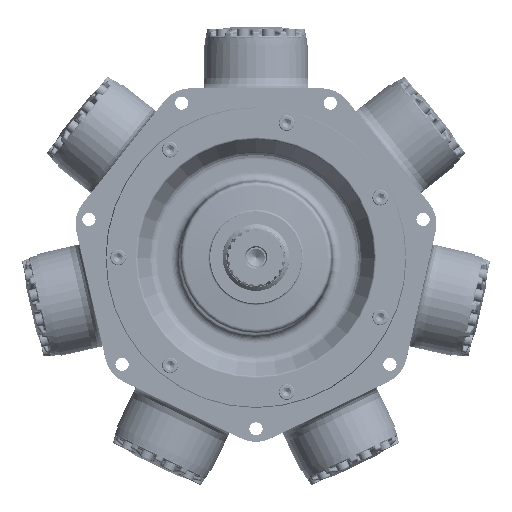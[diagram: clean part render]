
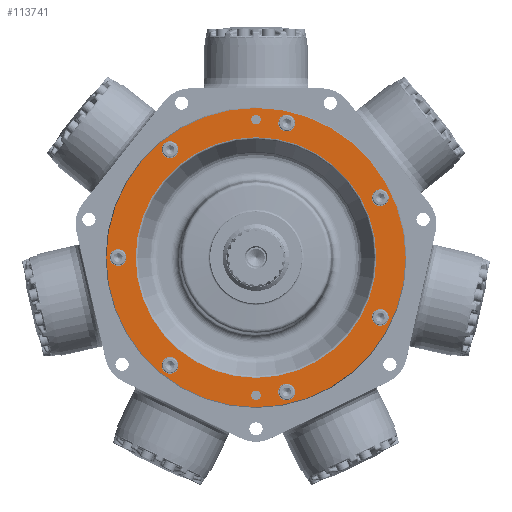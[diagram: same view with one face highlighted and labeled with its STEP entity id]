
A CAD part, top view. The second image highlights one B-rep face of the part: STEP entity #113741.
In plain terms, the highlighted planar face has unit normal (0, 0, 1).
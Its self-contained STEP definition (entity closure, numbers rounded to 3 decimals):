
#2254=FACE_BOUND('',#27237,.T.);
#2255=FACE_BOUND('',#27238,.T.);
#2256=FACE_BOUND('',#27239,.T.);
#2257=FACE_BOUND('',#27240,.T.);
#2258=FACE_BOUND('',#27241,.T.);
#2259=FACE_BOUND('',#27242,.T.);
#2260=FACE_BOUND('',#27243,.T.);
#2261=FACE_BOUND('',#27244,.T.);
#2262=FACE_BOUND('',#27245,.T.);
#2263=FACE_BOUND('',#27246,.T.);
#3432=PLANE('',#121323);
#20089=FACE_OUTER_BOUND('',#27236,.T.);
#27236=EDGE_LOOP('',(#80417));
#27237=EDGE_LOOP('',(#80418));
#27238=EDGE_LOOP('',(#80419));
#27239=EDGE_LOOP('',(#80420));
#27240=EDGE_LOOP('',(#80421));
#27241=EDGE_LOOP('',(#80422));
#27242=EDGE_LOOP('',(#80423));
#27243=EDGE_LOOP('',(#80424));
#27244=EDGE_LOOP('',(#80425));
#27245=EDGE_LOOP('',(#80426));
#27246=EDGE_LOOP('',(#80427));
#33166=CIRCLE('',#121319,182.808);
#33168=CIRCLE('',#121324,227.279);
#33169=CIRCLE('',#121325,7.176);
#33170=CIRCLE('',#121326,7.176);
#33171=CIRCLE('',#121327,12.7);
#33172=CIRCLE('',#121328,12.7);
#33173=CIRCLE('',#121329,12.7);
#33174=CIRCLE('',#121330,12.7);
#33175=CIRCLE('',#121331,12.7);
#33176=CIRCLE('',#121332,12.7);
#33177=CIRCLE('',#121333,12.7);
#45379=VERTEX_POINT('',#192448);
#45381=VERTEX_POINT('',#192457);
#45382=VERTEX_POINT('',#192459);
#45383=VERTEX_POINT('',#192461);
#45384=VERTEX_POINT('',#192463);
#45385=VERTEX_POINT('',#192465);
#45386=VERTEX_POINT('',#192467);
#45387=VERTEX_POINT('',#192469);
#45388=VERTEX_POINT('',#192471);
#45389=VERTEX_POINT('',#192473);
#45390=VERTEX_POINT('',#192475);
#57701=EDGE_CURVE('',#45379,#45379,#33166,.T.);
#57704=EDGE_CURVE('',#45381,#45381,#33168,.T.);
#57705=EDGE_CURVE('',#45382,#45382,#33169,.T.);
#57706=EDGE_CURVE('',#45383,#45383,#33170,.T.);
#57707=EDGE_CURVE('',#45384,#45384,#33171,.T.);
#57708=EDGE_CURVE('',#45385,#45385,#33172,.T.);
#57709=EDGE_CURVE('',#45386,#45386,#33173,.T.);
#57710=EDGE_CURVE('',#45387,#45387,#33174,.T.);
#57711=EDGE_CURVE('',#45388,#45388,#33175,.T.);
#57712=EDGE_CURVE('',#45389,#45389,#33176,.T.);
#57713=EDGE_CURVE('',#45390,#45390,#33177,.T.);
#80417=ORIENTED_EDGE('',*,*,#57704,.F.);
#80418=ORIENTED_EDGE('',*,*,#57705,.T.);
#80419=ORIENTED_EDGE('',*,*,#57706,.T.);
#80420=ORIENTED_EDGE('',*,*,#57707,.T.);
#80421=ORIENTED_EDGE('',*,*,#57708,.T.);
#80422=ORIENTED_EDGE('',*,*,#57709,.T.);
#80423=ORIENTED_EDGE('',*,*,#57710,.T.);
#80424=ORIENTED_EDGE('',*,*,#57711,.T.);
#80425=ORIENTED_EDGE('',*,*,#57712,.T.);
#80426=ORIENTED_EDGE('',*,*,#57713,.T.);
#80427=ORIENTED_EDGE('',*,*,#57701,.F.);
#113741=ADVANCED_FACE('',(#20089,#2254,#2255,#2256,#2257,#2258,#2259,#2260,
#2261,#2262,#2263),#3432,.T.);
#121319=AXIS2_PLACEMENT_3D('',#192450,#135734,#135735);
#121323=AXIS2_PLACEMENT_3D('',#192456,#135743,#135744);
#121324=AXIS2_PLACEMENT_3D('',#192458,#135745,#135746);
#121325=AXIS2_PLACEMENT_3D('',#192460,#135747,#135748);
#121326=AXIS2_PLACEMENT_3D('',#192462,#135749,#135750);
#121327=AXIS2_PLACEMENT_3D('',#192464,#135751,#135752);
#121328=AXIS2_PLACEMENT_3D('',#192466,#135753,#135754);
#121329=AXIS2_PLACEMENT_3D('',#192468,#135755,#135756);
#121330=AXIS2_PLACEMENT_3D('',#192470,#135757,#135758);
#121331=AXIS2_PLACEMENT_3D('',#192472,#135759,#135760);
#121332=AXIS2_PLACEMENT_3D('',#192474,#135761,#135762);
#121333=AXIS2_PLACEMENT_3D('',#192476,#135763,#135764);
#135734=DIRECTION('center_axis',(0.,0.,
1.));
#135735=DIRECTION('ref_axis',(1.,0.,0.));
#135743=DIRECTION('center_axis',(0.,0.,
1.));
#135744=DIRECTION('ref_axis',(0.,1.,0.));
#135745=DIRECTION('center_axis',(0.,0.,
-1.));
#135746=DIRECTION('ref_axis',(0.,1.,0.));
#135747=DIRECTION('center_axis',(0.,0.,
-1.));
#135748=DIRECTION('ref_axis',(1.,0.,0.));
#135749=DIRECTION('center_axis',(0.,0.,
-1.));
#135750=DIRECTION('ref_axis',(1.,0.,0.));
#135751=DIRECTION('center_axis',(0.,0.,
-1.));
#135752=DIRECTION('ref_axis',(-0.623,0.782,0.));
#135753=DIRECTION('center_axis',(0.,0.,
-1.));
#135754=DIRECTION('ref_axis',(0.223,0.975,0.));
#135755=DIRECTION('center_axis',(0.,0.,
-1.));
#135756=DIRECTION('ref_axis',(0.901,0.434,0.));
#135757=DIRECTION('center_axis',(0.,0.,
-1.));
#135758=DIRECTION('ref_axis',(0.901,-0.434,0.));
#135759=DIRECTION('center_axis',(0.,0.,
-1.));
#135760=DIRECTION('ref_axis',(0.223,-0.975,0.));
#135761=DIRECTION('center_axis',(0.,0.,
-1.));
#135762=DIRECTION('ref_axis',(-0.623,-0.782,0.));
#135763=DIRECTION('center_axis',(0.,0.,
-1.));
#135764=DIRECTION('ref_axis',(-1.,0.,0.));
#192448=CARTESIAN_POINT('',(0.,-182.808,123.104));
#192450=CARTESIAN_POINT('Origin',(0.,0.,
123.104));
#192456=CARTESIAN_POINT('Origin',(-206.375,0.,123.104));
#192457=CARTESIAN_POINT('',(0.,-227.279,123.104));
#192458=CARTESIAN_POINT('Origin',(0.,0.,
123.104));
#192459=CARTESIAN_POINT('',(-7.175,209.55,123.104));
#192460=CARTESIAN_POINT('Origin',(0.,209.55,123.104));
#192461=CARTESIAN_POINT('',(-7.176,-209.55,123.104));
#192462=CARTESIAN_POINT('Origin',(0.,-209.55,123.104));
#192463=CARTESIAN_POINT('',(-122.734,153.904,123.104));
#192464=CARTESIAN_POINT('Origin',(-130.652,163.833,123.104));
#192465=CARTESIAN_POINT('',(43.803,191.915,123.104));
#192466=CARTESIAN_POINT('Origin',(46.629,204.296,123.104));
#192467=CARTESIAN_POINT('',(177.356,85.41,123.104));
#192468=CARTESIAN_POINT('Origin',(188.798,90.92,123.104));
#192469=CARTESIAN_POINT('',(177.356,-85.41,123.104));
#192470=CARTESIAN_POINT('Origin',(188.798,-90.92,123.104));
#192471=CARTESIAN_POINT('',(43.803,-191.915,123.104));
#192472=CARTESIAN_POINT('Origin',(46.629,-204.296,123.104));
#192473=CARTESIAN_POINT('',(-122.734,-153.904,123.104));
#192474=CARTESIAN_POINT('Origin',(-130.652,-163.833,123.104));
#192475=CARTESIAN_POINT('',(-196.85,0.,123.104));
#192476=CARTESIAN_POINT('Origin',(-209.55,0.,123.104));
